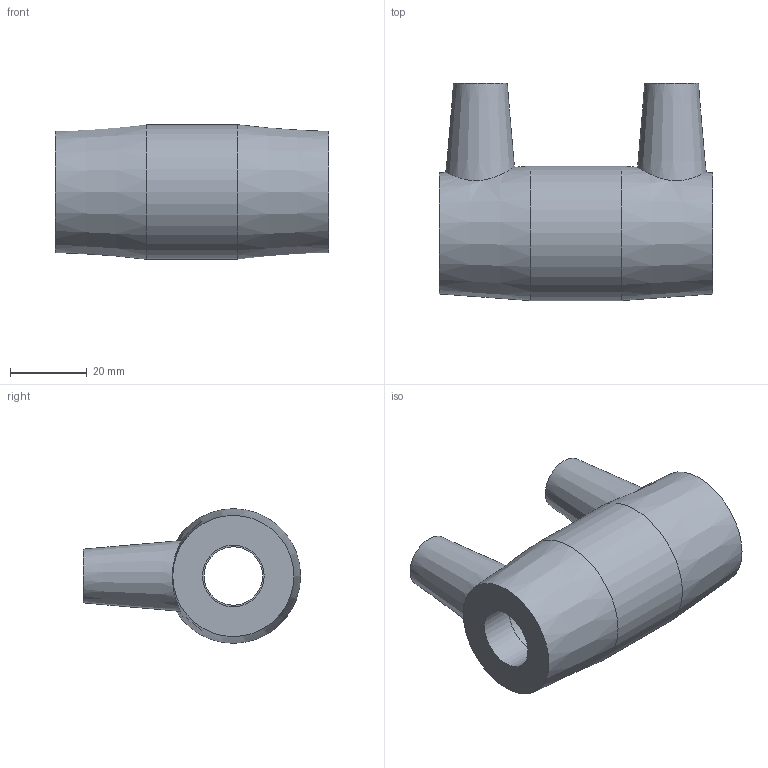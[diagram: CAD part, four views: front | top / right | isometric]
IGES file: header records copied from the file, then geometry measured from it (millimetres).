
Global section: file name: 490104016.ipt; native system: Autodesk Inventor 2015; preprocessor: unknown; author: KIM; date: 20190124.130012; units: millimetre
Bounding box: 71 x 56.5 x 35 mm (x, y, z)
Volume: 56913.6 mm3; surface area: 15795.8 mm2
Topology: 1 solids, 1 shells, 28 faces, 64 edges, 46 vertices
Faces by surface type: plane 12, revolution 9, cone 4, cylinder 3
Full cylindrical faces by diameter (mm): 4 x2, 35 x1
